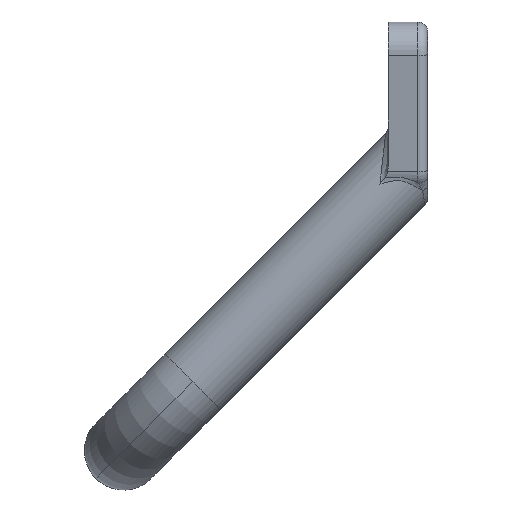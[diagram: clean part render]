
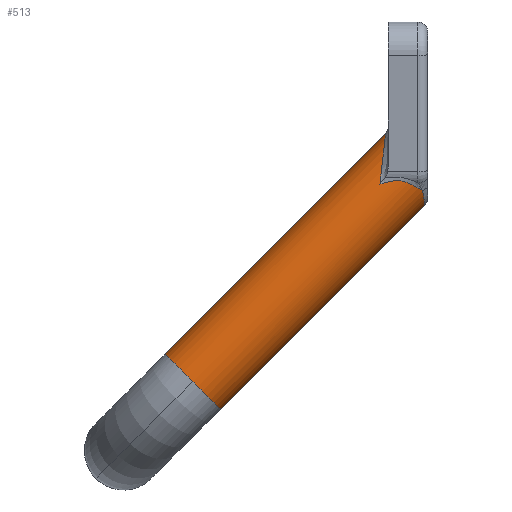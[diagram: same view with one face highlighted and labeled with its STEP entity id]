
A CAD part, left-side view. The second image highlights one B-rep face of the part: STEP entity #513.
In plain terms, the highlighted cylindrical face has radius 4 mm (diameter 8 mm), a partial arc.
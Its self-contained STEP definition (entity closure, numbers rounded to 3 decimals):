
#47 = LINE ( 'NONE', #938, #701 ) ;
#89 = VERTEX_POINT ( 'NONE', #1596 ) ;
#121 = CARTESIAN_POINT ( 'NONE',  ( -100., 23.971, -23.971 ) ) ;
#122 = ORIENTED_EDGE ( 'NONE', *, *, #1111, .T. ) ;
#127 = FACE_OUTER_BOUND ( 'NONE', #559, .T. ) ;
#132 = CARTESIAN_POINT ( 'NONE',  ( -103.645, 1.558, -3.905 ) ) ;
#144 = CARTESIAN_POINT ( 'NONE',  ( -103.991, 4.083, -3.574 ) ) ;
#149 = CARTESIAN_POINT ( 'NONE',  ( -102.005, 4.293, 1.364 ) ) ;
#155 = DIRECTION ( 'NONE',  ( 0., 0.707, 0.707 ) ) ;
#157 = CARTESIAN_POINT ( 'NONE',  ( -103.894, 2.267, -3.583 ) ) ;
#174 = CARTESIAN_POINT ( 'NONE',  ( -103.125, 0.789, -4.331 ) ) ;
#181 = CARTESIAN_POINT ( 'NONE',  ( -100., 0.293, -5.95 ) ) ;
#229 = CIRCLE ( 'NONE', #1873, 4. ) ;
#259 = ORIENTED_EDGE ( 'NONE', *, *, #793, .F. ) ;
#272 = B_SPLINE_CURVE_WITH_KNOTS ( 'NONE', 3,
 ( #1076, #1822, #174, #341, #2186, #132, #681, #2199, #157, #1648, #912, #729, #496, #144, #1995, #1656 ),
 .UNSPECIFIED., .F., .F.,
 ( 4, 2, 2, 2, 2, 2, 2, 4 ),
 ( 0., 0.001, 0.001, 0.002, 0.002, 0.003, 0.004, 0.005 ),
 .UNSPECIFIED. ) ;
#308 = CARTESIAN_POINT ( 'NONE',  ( -100., 2.828, 2.828 ) ) ;
#341 = CARTESIAN_POINT ( 'NONE',  ( -103.359, 1.086, -4.171 ) ) ;
#405 = VERTEX_POINT ( 'NONE', #1374 ) ;
#438 = VERTEX_POINT ( 'NONE', #1816 ) ;
#452 = CYLINDRICAL_SURFACE ( 'NONE', #1443, 4. ) ;
#496 = CARTESIAN_POINT ( 'NONE',  ( -104.002, 3.477, -3.48 ) ) ;
#503 = DIRECTION ( 'NONE',  ( 0., 0.707, -0.707 ) ) ;
#513 = ADVANCED_FACE ( 'NONE', ( #127 ), #452, .T. ) ;
#559 = EDGE_LOOP ( 'NONE', ( #259, #2220, #122, #2297, #1860, #1313, #1758 ) ) ;
#658 = EDGE_CURVE ( 'NONE', #1646, #438, #1744, .T. ) ;
#681 = CARTESIAN_POINT ( 'NONE',  ( -103.721, 1.723, -3.816 ) ) ;
#701 = VECTOR ( 'NONE', #1535, 1000. ) ;
#729 = CARTESIAN_POINT ( 'NONE',  ( -104., 3.27, -3.461 ) ) ;
#757 = CARTESIAN_POINT ( 'NONE',  ( -100., 21.142, -26.799 ) ) ;
#759 = CARTESIAN_POINT ( 'NONE',  ( -101.091, 0.293, -5.95 ) ) ;
#784 = VERTEX_POINT ( 'NONE', #789 ) ;
#789 = CARTESIAN_POINT ( 'NONE',  ( -102.859, 0.506, -4.461 ) ) ;
#793 = EDGE_CURVE ( 'NONE', #1772, #1985, #47, .T. ) ;
#912 = CARTESIAN_POINT ( 'NONE',  ( -103.98, 2.864, -3.465 ) ) ;
#915 = EDGE_CURVE ( 'NONE', #89, #1985, #1092, .T. ) ;
#938 = CARTESIAN_POINT ( 'NONE',  ( -100., -2.828, -2.828 ) ) ;
#1052 =( BOUNDED_CURVE ( )  B_SPLINE_CURVE ( 3, ( #181, #759, #1876, #1503 ),
 .UNSPECIFIED., .F., .F. ) 
 B_SPLINE_CURVE_WITH_KNOTS ( ( 4, 4 ),
 ( 0., 0.796 ),
 .UNSPECIFIED. ) 
 CURVE ( )  GEOMETRIC_REPRESENTATION_ITEM ( )  RATIONAL_B_SPLINE_CURVE ( ( 1., 0.948, 0.948, 1. ) ) 
 REPRESENTATION_ITEM ( '' )  );
#1057 = DIRECTION ( 'NONE',  ( 0., 0.707, -0.707 ) ) ;
#1076 = CARTESIAN_POINT ( 'NONE',  ( -102.859, 0.506, -4.461 ) ) ;
#1092 = CIRCLE ( 'NONE', #1403, 4. ) ;
#1111 = EDGE_CURVE ( 'NONE', #784, #1646, #272, .T. ) ;
#1208 = CARTESIAN_POINT ( 'NONE',  ( -100., 0., 0. ) ) ;
#1271 = CARTESIAN_POINT ( 'NONE',  ( -103.928, 4.867, -3.801 ) ) ;
#1313 = ORIENTED_EDGE ( 'NONE', *, *, #1702, .T. ) ;
#1374 = CARTESIAN_POINT ( 'NONE',  ( -100., 26.799, -21.142 ) ) ;
#1403 = AXIS2_PLACEMENT_3D ( 'NONE', #121, #1961, #1795 ) ;
#1423 = EDGE_CURVE ( 'NONE', #1772, #784, #1052, .T. ) ;
#1439 = CARTESIAN_POINT ( 'NONE',  ( -100., 23.971, -23.971 ) ) ;
#1443 = AXIS2_PLACEMENT_3D ( 'NONE', #1208, #503, #1589 ) ;
#1503 = CARTESIAN_POINT ( 'NONE',  ( -102.859, 0.506, -4.461 ) ) ;
#1535 = DIRECTION ( 'NONE',  ( 0., 0.707, -0.707 ) ) ;
#1589 = DIRECTION ( 'NONE',  ( 0., 0.707, 0.707 ) ) ;
#1596 = CARTESIAN_POINT ( 'NONE',  ( -104., 23.971, -23.971 ) ) ;
#1646 = VERTEX_POINT ( 'NONE', #1271 ) ;
#1648 = CARTESIAN_POINT ( 'NONE',  ( -103.961, 2.663, -3.488 ) ) ;
#1656 = CARTESIAN_POINT ( 'NONE',  ( -103.928, 4.867, -3.801 ) ) ;
#1702 = EDGE_CURVE ( 'NONE', #405, #89, #229, .T. ) ;
#1744 =( BOUNDED_CURVE ( )  B_SPLINE_CURVE ( 3, ( #1856, #2024, #149, #2014 ),
 .UNSPECIFIED., .F., .F. ) 
 B_SPLINE_CURVE_WITH_KNOTS ( ( 4, 4 ),
 ( 1.76, 3.142 ),
 .UNSPECIFIED. ) 
 CURVE ( )  GEOMETRIC_REPRESENTATION_ITEM ( )  RATIONAL_B_SPLINE_CURVE ( ( 1., 0.847, 0.847, 1. ) ) 
 REPRESENTATION_ITEM ( '' )  );
#1758 = ORIENTED_EDGE ( 'NONE', *, *, #915, .T. ) ;
#1772 = VERTEX_POINT ( 'NONE', #2190 ) ;
#1795 = DIRECTION ( 'NONE',  ( 0., 0.707, 0.707 ) ) ;
#1799 = EDGE_CURVE ( 'NONE', #438, #405, #1825, .T. ) ;
#1816 = CARTESIAN_POINT ( 'NONE',  ( -100., 4.293, 1.364 ) ) ;
#1822 = CARTESIAN_POINT ( 'NONE',  ( -102.997, 0.646, -4.402 ) ) ;
#1825 = LINE ( 'NONE', #308, #2156 ) ;
#1856 = CARTESIAN_POINT ( 'NONE',  ( -103.928, 4.867, -3.801 ) ) ;
#1860 = ORIENTED_EDGE ( 'NONE', *, *, #1799, .T. ) ;
#1873 = AXIS2_PLACEMENT_3D ( 'NONE', #1439, #2196, #155 ) ;
#1876 = CARTESIAN_POINT ( 'NONE',  ( -102.096, 0.368, -5.426 ) ) ;
#1961 = DIRECTION ( 'NONE',  ( 0., -0.707, 0.707 ) ) ;
#1985 = VERTEX_POINT ( 'NONE', #757 ) ;
#1995 = CARTESIAN_POINT ( 'NONE',  ( -103.965, 4.477, -3.681 ) ) ;
#2014 = CARTESIAN_POINT ( 'NONE',  ( -100., 4.293, 1.364 ) ) ;
#2024 = CARTESIAN_POINT ( 'NONE',  ( -103.551, 4.519, -0.668 ) ) ;
#2156 = VECTOR ( 'NONE', #1057, 1000. ) ;
#2186 = CARTESIAN_POINT ( 'NONE',  ( -103.464, 1.24, -4.083 ) ) ;
#2190 = CARTESIAN_POINT ( 'NONE',  ( -100., 0.293, -5.95 ) ) ;
#2196 = DIRECTION ( 'NONE',  ( 0., -0.707, 0.707 ) ) ;
#2199 = CARTESIAN_POINT ( 'NONE',  ( -103.846, 2.076, -3.655 ) ) ;
#2220 = ORIENTED_EDGE ( 'NONE', *, *, #1423, .T. ) ;
#2297 = ORIENTED_EDGE ( 'NONE', *, *, #658, .T. ) ;
